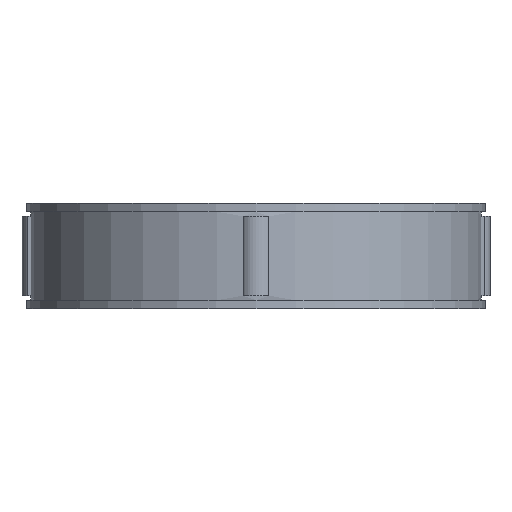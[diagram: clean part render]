
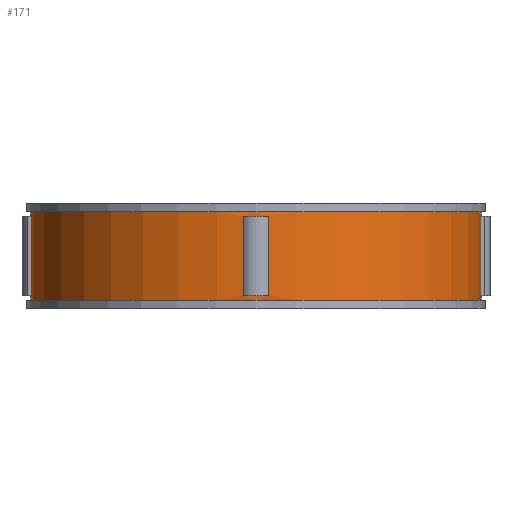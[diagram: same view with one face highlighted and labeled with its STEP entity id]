
A CAD part, front view. The second image highlights one B-rep face of the part: STEP entity #171.
In plain terms, the highlighted cylindrical face has radius 25.5 mm (diameter 51 mm), a full revolution.
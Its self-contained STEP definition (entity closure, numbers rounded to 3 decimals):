
#171=ADVANCED_FACE('',(#359,#360,#361,#362,#363,#364),#219,.T.);
#219=CYLINDRICAL_SURFACE('',#882,25.5);
#231=LINE('',#1207,#295);
#232=LINE('',#1212,#296);
#233=LINE('',#1215,#297);
#234=LINE('',#1220,#298);
#235=LINE('',#1223,#299);
#236=LINE('',#1228,#300);
#237=LINE('',#1234,#301);
#238=LINE('',#1238,#302);
#295=VECTOR('',#966,1.);
#296=VECTOR('',#969,1.);
#297=VECTOR('',#972,1.);
#298=VECTOR('',#975,1.);
#299=VECTOR('',#978,1.);
#300=VECTOR('',#981,1.);
#301=VECTOR('',#986,1.);
#302=VECTOR('',#989,1.);
#359=FACE_BOUND('',#383,.T.);
#360=FACE_BOUND('',#384,.T.);
#361=FACE_BOUND('',#385,.T.);
#362=FACE_BOUND('',#386,.T.);
#363=FACE_BOUND('',#387,.T.);
#364=FACE_BOUND('',#388,.T.);
#383=EDGE_LOOP('',(#447));
#384=EDGE_LOOP('',(#448));
#385=EDGE_LOOP('',(#449,#450,#451,#452));
#386=EDGE_LOOP('',(#453,#454,#455,#456));
#387=EDGE_LOOP('',(#457,#458,#459,#460));
#388=EDGE_LOOP('',(#461,#462,#463,#464));
#447=ORIENTED_EDGE('',*,*,#727,.F.);
#448=ORIENTED_EDGE('',*,*,#728,.T.);
#449=ORIENTED_EDGE('',*,*,#729,.F.);
#450=ORIENTED_EDGE('',*,*,#730,.T.);
#451=ORIENTED_EDGE('',*,*,#731,.F.);
#452=ORIENTED_EDGE('',*,*,#732,.F.);
#453=ORIENTED_EDGE('',*,*,#733,.F.);
#454=ORIENTED_EDGE('',*,*,#734,.T.);
#455=ORIENTED_EDGE('',*,*,#735,.F.);
#456=ORIENTED_EDGE('',*,*,#736,.F.);
#457=ORIENTED_EDGE('',*,*,#737,.F.);
#458=ORIENTED_EDGE('',*,*,#738,.T.);
#459=ORIENTED_EDGE('',*,*,#739,.F.);
#460=ORIENTED_EDGE('',*,*,#740,.F.);
#461=ORIENTED_EDGE('',*,*,#741,.F.);
#462=ORIENTED_EDGE('',*,*,#742,.T.);
#463=ORIENTED_EDGE('',*,*,#743,.T.);
#464=ORIENTED_EDGE('',*,*,#744,.T.);
#655=VERTEX_POINT('',#1204);
#656=VERTEX_POINT('',#1206);
#657=VERTEX_POINT('',#1208);
#658=VERTEX_POINT('',#1209);
#659=VERTEX_POINT('',#1211);
#660=VERTEX_POINT('',#1213);
#661=VERTEX_POINT('',#1216);
#662=VERTEX_POINT('',#1217);
#663=VERTEX_POINT('',#1219);
#664=VERTEX_POINT('',#1221);
#665=VERTEX_POINT('',#1224);
#666=VERTEX_POINT('',#1225);
#667=VERTEX_POINT('',#1227);
#668=VERTEX_POINT('',#1229);
#669=VERTEX_POINT('',#1232);
#670=VERTEX_POINT('',#1233);
#671=VERTEX_POINT('',#1235);
#672=VERTEX_POINT('',#1237);
#727=EDGE_CURVE('',#655,#655,#831,.T.);
#728=EDGE_CURVE('',#656,#656,#832,.T.);
#729=EDGE_CURVE('',#657,#658,#231,.T.);
#730=EDGE_CURVE('',#657,#659,#833,.T.);
#731=EDGE_CURVE('',#660,#659,#232,.T.);
#732=EDGE_CURVE('',#658,#660,#834,.T.);
#733=EDGE_CURVE('',#661,#662,#233,.T.);
#734=EDGE_CURVE('',#661,#663,#835,.T.);
#735=EDGE_CURVE('',#664,#663,#234,.T.);
#736=EDGE_CURVE('',#662,#664,#836,.T.);
#737=EDGE_CURVE('',#665,#666,#235,.T.);
#738=EDGE_CURVE('',#665,#667,#837,.T.);
#739=EDGE_CURVE('',#668,#667,#236,.T.);
#740=EDGE_CURVE('',#666,#668,#838,.T.);
#741=EDGE_CURVE('',#669,#670,#839,.T.);
#742=EDGE_CURVE('',#669,#671,#237,.T.);
#743=EDGE_CURVE('',#671,#672,#840,.T.);
#744=EDGE_CURVE('',#672,#670,#238,.T.);
#831=CIRCLE('',#872,25.5);
#832=CIRCLE('',#873,25.5);
#833=CIRCLE('',#874,25.5);
#834=CIRCLE('',#875,25.5);
#835=CIRCLE('',#876,25.5);
#836=CIRCLE('',#877,25.5);
#837=CIRCLE('',#878,25.5);
#838=CIRCLE('',#879,25.5);
#839=CIRCLE('',#880,25.5);
#840=CIRCLE('',#881,25.5);
#872=AXIS2_PLACEMENT_3D('',#1203,#962,#963);
#873=AXIS2_PLACEMENT_3D('',#1205,#964,#965);
#874=AXIS2_PLACEMENT_3D('',#1210,#967,#968);
#875=AXIS2_PLACEMENT_3D('',#1214,#970,#971);
#876=AXIS2_PLACEMENT_3D('',#1218,#973,#974);
#877=AXIS2_PLACEMENT_3D('',#1222,#976,#977);
#878=AXIS2_PLACEMENT_3D('',#1226,#979,#980);
#879=AXIS2_PLACEMENT_3D('',#1230,#982,#983);
#880=AXIS2_PLACEMENT_3D('',#1231,#984,#985);
#881=AXIS2_PLACEMENT_3D('',#1236,#987,#988);
#882=AXIS2_PLACEMENT_3D('',#1239,#990,#991);
#962=DIRECTION('',(0.,0.,1.));
#963=DIRECTION('',(1.,0.,0.));
#964=DIRECTION('',(0.,0.,1.));
#965=DIRECTION('',(1.,0.,0.));
#966=DIRECTION('',(0.,0.,-1.));
#967=DIRECTION('',(0.,0.,1.));
#968=DIRECTION('',(1.,0.,0.));
#969=DIRECTION('',(0.,0.,1.));
#970=DIRECTION('',(0.,0.,1.));
#971=DIRECTION('',(1.,0.,0.));
#972=DIRECTION('',(0.,0.,-1.));
#973=DIRECTION('',(0.,0.,1.));
#974=DIRECTION('',(1.,0.,0.));
#975=DIRECTION('',(0.,0.,1.));
#976=DIRECTION('',(0.,0.,1.));
#977=DIRECTION('',(1.,0.,0.));
#978=DIRECTION('',(0.,0.,-1.));
#979=DIRECTION('',(0.,0.,1.));
#980=DIRECTION('',(1.,0.,0.));
#981=DIRECTION('',(0.,0.,1.));
#982=DIRECTION('',(0.,0.,1.));
#983=DIRECTION('',(1.,0.,0.));
#984=DIRECTION('',(0.,0.,-1.));
#985=DIRECTION('',(-1.,0.,0.));
#986=DIRECTION('',(0.,0.,-1.));
#987=DIRECTION('',(0.,0.,-1.));
#988=DIRECTION('',(-1.,0.,0.));
#989=DIRECTION('',(0.,0.,1.));
#990=DIRECTION('',(0.,0.,-1.));
#991=DIRECTION('',(-1.,0.,0.));
#1203=CARTESIAN_POINT('',(0.,0.,11.));
#1204=CARTESIAN_POINT('',(25.5,0.,11.));
#1205=CARTESIAN_POINT('',(0.,0.,1.));
#1206=CARTESIAN_POINT('',(25.5,0.,1.));
#1207=CARTESIAN_POINT('',(25.458,-1.471,12.));
#1208=CARTESIAN_POINT('',(25.458,-1.471,10.5));
#1209=CARTESIAN_POINT('',(25.458,-1.471,1.5));
#1210=CARTESIAN_POINT('',(0.,0.,10.5));
#1211=CARTESIAN_POINT('',(25.458,1.471,10.5));
#1212=CARTESIAN_POINT('',(25.458,1.471,12.));
#1213=CARTESIAN_POINT('',(25.458,1.471,1.5));
#1214=CARTESIAN_POINT('',(0.,0.,1.5));
#1215=CARTESIAN_POINT('',(1.471,25.458,12.));
#1216=CARTESIAN_POINT('',(1.471,25.458,10.5));
#1217=CARTESIAN_POINT('',(1.471,25.458,1.5));
#1218=CARTESIAN_POINT('',(0.,0.,10.5));
#1219=CARTESIAN_POINT('',(-1.471,25.458,10.5));
#1220=CARTESIAN_POINT('',(-1.471,25.458,12.));
#1221=CARTESIAN_POINT('',(-1.471,25.458,1.5));
#1222=CARTESIAN_POINT('',(0.,0.,1.5));
#1223=CARTESIAN_POINT('',(-25.458,1.471,12.));
#1224=CARTESIAN_POINT('',(-25.458,1.471,10.5));
#1225=CARTESIAN_POINT('',(-25.458,1.471,1.5));
#1226=CARTESIAN_POINT('',(0.,0.,10.5));
#1227=CARTESIAN_POINT('',(-25.458,-1.471,10.5));
#1228=CARTESIAN_POINT('',(-25.458,-1.471,12.));
#1229=CARTESIAN_POINT('',(-25.458,-1.471,1.5));
#1230=CARTESIAN_POINT('',(0.,0.,1.5));
#1231=CARTESIAN_POINT('',(0.,0.,10.5));
#1232=CARTESIAN_POINT('',(1.471,-25.458,10.5));
#1233=CARTESIAN_POINT('',(-1.471,-25.458,10.5));
#1234=CARTESIAN_POINT('',(1.471,-25.458,12.));
#1235=CARTESIAN_POINT('',(1.471,-25.458,1.5));
#1236=CARTESIAN_POINT('',(0.,0.,1.5));
#1237=CARTESIAN_POINT('',(-1.471,-25.458,1.5));
#1238=CARTESIAN_POINT('',(-1.471,-25.458,12.));
#1239=CARTESIAN_POINT('',(0.,0.,12.));
